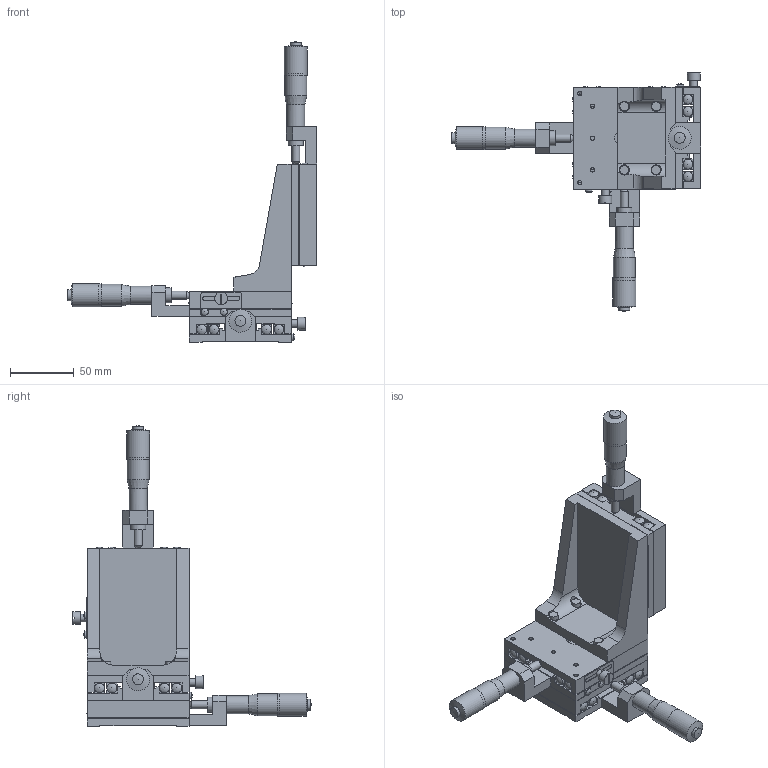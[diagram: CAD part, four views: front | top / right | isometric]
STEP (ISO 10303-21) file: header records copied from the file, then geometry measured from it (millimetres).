
FILE_DESCRIPTION( ( 'STEP AP203' ), '1' );
FILE_NAME( 'C:/3D-Trans/3D_B71-80A+090217.step', '2009-02-17T06:42:52', ( ' ' ), ( ' ' ), 'XStep 1.0', ' ', ' ' );
FILE_SCHEMA( ( 'CONFIG_CONTROL_DESIGN' ) );
Length unit declared in the file: millimetre
Products named in the file (10): 1; 2; 3; 4; 5; 6; 7; 8; 9; 10
Bounding box: 196 x 187.3 x 236 mm (x, y, z)
Volume: 497859.4 mm3; surface area: 177581.2 mm2
Topology: 10 solids, 13 shells, 695 faces, 1810 edges, 1198 vertices
Faces by surface type: plane 435, cylinder 203, sphere 36, cone 21
Full cylindrical faces by diameter (mm): 2 x12, 3 x27, 3.3 x36, 4.5 x4, 5.6 x6, 6 x3, 6.35 x6, 7 x4, 7.5 x3, 7.8 x24, 8 x11, 8.6 x3, 9.5 x3, 10 x6, 12 x6, 14 x3, 15 x3, 16.8 x3, 17.2 x3, 18 x3
Entity records: 19420 total; most frequent: CARTESIAN_POINT 3567, DIRECTION 3220, ORIENTED_EDGE 2774, EDGE_CURVE 1387, AXIS2_PLACEMENT_3D 1146, EDGE_LOOP 1058, VERTEX_POINT 1019, LINE 928
